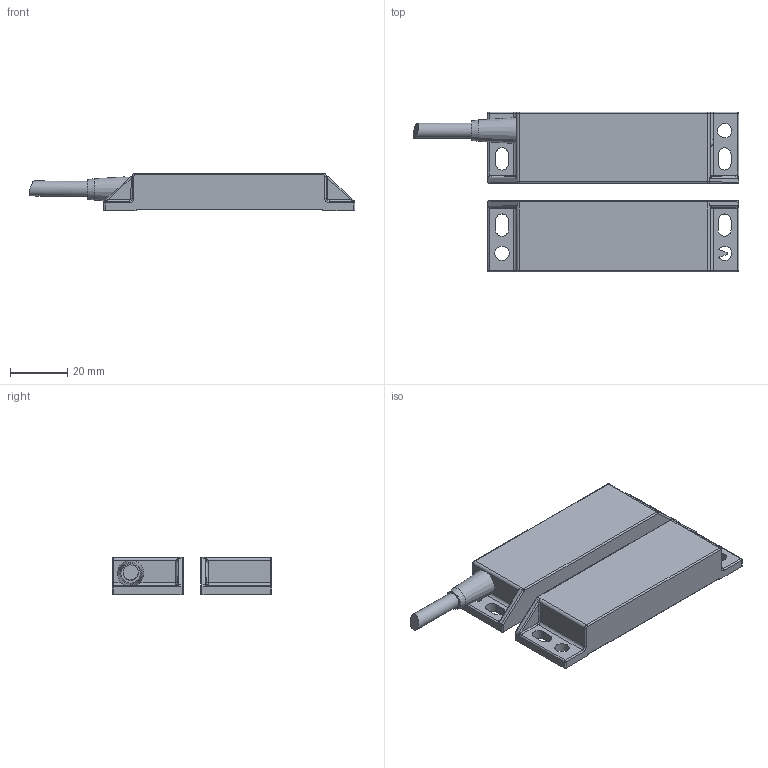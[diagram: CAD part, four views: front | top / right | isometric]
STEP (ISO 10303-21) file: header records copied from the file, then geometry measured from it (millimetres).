
FILE_DESCRIPTION((''),'2;1');
FILE_NAME('C:\Vault_local\Designs\Stock\3D pour clients\préparations\2D3D 523 A_arrangement 1.stp','2009-08-17T11:03:54',('Georges THOLLOT ','Responsible for','Methods and Industrialization',' Tl : +33 (0)4 77 53 90 27','gthollot@celduc.com'),('Celduc r e l a i s','5, rue Ampre, BP 30004','42290 SORBIERS - France','Fax. : +33 (0)4 77 53 85 51','N siret 353 310 519 00015','ISO 9001 N QUAL/1993/1106b','www.celduc.com'),'Autodesk Inventor 2009','Autodesk Inventor 2009','');
FILE_SCHEMA(('AUTOMOTIVE_DESIGN { 1 0 10303 214 1 1 1 1 }'));
Length unit declared in the file: millimetre
Products named in the file (3): PXS arrangement; PXS magnet; PXS detector
Assembly tree (2 placements, depth 2):
  PXS arrangement
    PXS magnet
    PXS detector
Bounding box: 114.15 x 56 x 13 mm (x, y, z)
Volume: 46953.6 mm3; surface area: 14724.3 mm2
Topology: 2 solids, 2 shells, 168 faces, 429 edges, 257 vertices
Faces by surface type: cylinder 58, plane 54, bspline 37, sphere 8, torus 8, cone 3
Full cylindrical faces by diameter (mm): 5 x2, 5.3 x1
Entity records: 6344 total; most frequent: CARTESIAN_POINT 2309, ORIENTED_EDGE 810, DIRECTION 806, EDGE_CURVE 405, AXIS2_PLACEMENT_3D 298, VERTEX_POINT 249, VECTOR 210, LINE 210
